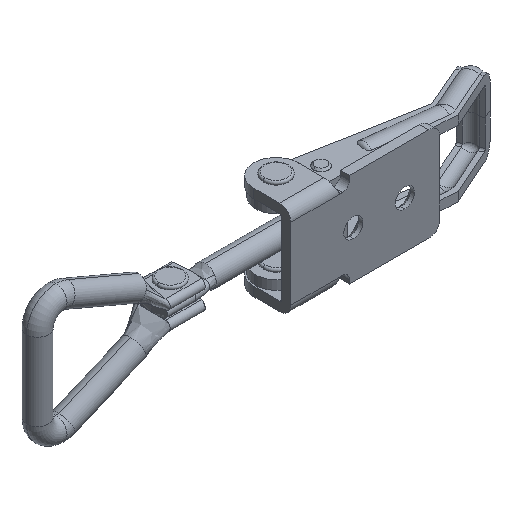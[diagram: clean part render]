
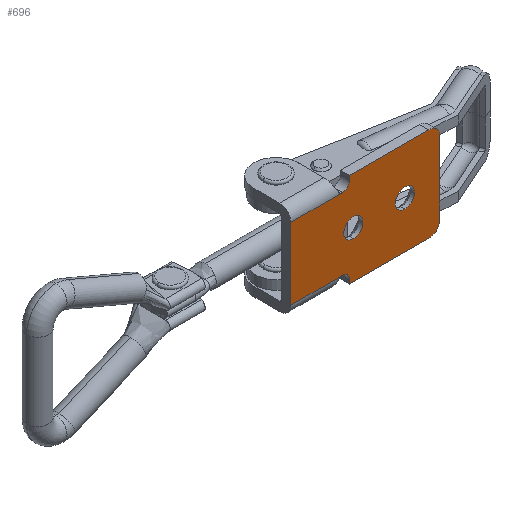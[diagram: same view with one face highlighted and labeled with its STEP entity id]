
A CAD part, isometric view. The second image highlights one B-rep face of the part: STEP entity #696.
In plain terms, the highlighted planar face has unit normal (0, -1, 0).
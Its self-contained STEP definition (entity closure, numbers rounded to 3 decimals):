
#508 = EDGE_CURVE ( 'NONE', #5918, #5825, #6114, .T. ) ;
#514 = EDGE_CURVE ( 'NONE', #5831, #5797, #6037, .T. ) ;
#696 = ADVANCED_FACE ( 'NONE', ( #7395, #7396, #7397 ), #3079, .F. ) ;
#740 = EDGE_CURVE ( 'NONE', #5938, #5826, #4828, .T. ) ;
#741 = EDGE_CURVE ( 'NONE', #5920, #5799, #4787, .T. ) ;
#747 = EDGE_CURVE ( 'NONE', #5797, #5831, #4752, .T. ) ;
#751 = EDGE_CURVE ( 'NONE', #5826, #5852, #7466, .T. ) ;
#755 = EDGE_CURVE ( 'NONE', #5934, #5895, #5123, .T. ) ;
#757 = EDGE_CURVE ( 'NONE', #5806, #5892, #7469, .T. ) ;
#760 = EDGE_CURVE ( 'NONE', #5825, #5918, #5016, .T. ) ;
#762 = EDGE_CURVE ( 'NONE', #5800, #5806, #4594, .T. ) ;
#764 = EDGE_CURVE ( 'NONE', #5852, #5934, #7472, .T. ) ;
#768 = EDGE_CURVE ( 'NONE', #5895, #5800, #7475, .T. ) ;
#770 = EDGE_CURVE ( 'NONE', #5820, #5877, #7477, .T. ) ;
#773 = EDGE_CURVE ( 'NONE', #5820, #5799, #7480, .T. ) ;
#781 = EDGE_CURVE ( 'NONE', #5892, #5920, #7486, .T. ) ;
#788 = EDGE_CURVE ( 'NONE', #5938, #5877, #7488, .T. ) ;
#1013 = DIRECTION ( 'NONE',  ( -1., 0., 0. ) ) ;
#1449 = CARTESIAN_POINT ( 'NONE',  ( 0., 0., 9.75 ) ) ;
#1815 = DIRECTION ( 'NONE',  ( 0., 0., 1. ) ) ;
#1870 = DIRECTION ( 'NONE',  ( 0., 1., 0. ) ) ;
#1877 = CARTESIAN_POINT ( 'NONE',  ( 17., 0., 0. ) ) ;
#1922 = DIRECTION ( 'NONE',  ( 0., 0., 1. ) ) ;
#2303 = DIRECTION ( 'NONE',  ( 0., 1., 0. ) ) ;
#2442 = CARTESIAN_POINT ( 'NONE',  ( 31., 0., 0. ) ) ;
#2981 = DIRECTION ( 'NONE',  ( 0., 1., 0. ) ) ;
#3033 = CARTESIAN_POINT ( 'NONE',  ( 37.5, 0., 9.75 ) ) ;
#3043 = DIRECTION ( 'NONE',  ( 0., 0., 1. ) ) ;
#3079 = PLANE ( 'NONE',  #4670 ) ;
#4172 = CARTESIAN_POINT ( 'NONE',  ( 14., 0., 11.75 ) ) ;
#4204 = DIRECTION ( 'NONE',  ( 0., -1., 0. ) ) ;
#4208 = CARTESIAN_POINT ( 'NONE',  ( 14., 0., -11.75 ) ) ;
#4220 = DIRECTION ( 'NONE',  ( 0., 0., -1. ) ) ;
#4286 = DIRECTION ( 'NONE',  ( 0., 0., 1. ) ) ;
#4321 = DIRECTION ( 'NONE',  ( 0., -1., 0. ) ) ;
#4581 = AXIS2_PLACEMENT_3D ( 'NONE', #4172, #4204, #4220 ) ;
#4594 = CIRCLE ( 'NONE', #4850, 3. ) ;
#4650 = VECTOR ( 'NONE', #6950, 1000. ) ;
#4654 = AXIS2_PLACEMENT_3D ( 'NONE', #7006, #6961, #7010 ) ;
#4670 = AXIS2_PLACEMENT_3D ( 'NONE', #3033, #2981, #3043 ) ;
#4686 = AXIS2_PLACEMENT_3D ( 'NONE', #7019, #6997, #7007 ) ;
#4706 = AXIS2_PLACEMENT_3D ( 'NONE', #4208, #4321, #4286 ) ;
#4734 = VECTOR ( 'NONE', #6902, 1000. ) ;
#4752 = CIRCLE ( 'NONE', #4851, 2.6 ) ;
#4777 = VECTOR ( 'NONE', #6907, 1000. ) ;
#4787 = CIRCLE ( 'NONE', #4706, 2. ) ;
#4828 = CIRCLE ( 'NONE', #4581, 2. ) ;
#4847 = VECTOR ( 'NONE', #6893, 1000. ) ;
#4850 = AXIS2_PLACEMENT_3D ( 'NONE', #6915, #7003, #6998 ) ;
#4851 = AXIS2_PLACEMENT_3D ( 'NONE', #6958, #6920, #6919 ) ;
#4869 = VECTOR ( 'NONE', #6967, 1000. ) ;
#4904 = VECTOR ( 'NONE', #6934, 1000. ) ;
#5016 = CIRCLE ( 'NONE', #4686, 2.6 ) ;
#5033 = VECTOR ( 'NONE', #6994, 1000. ) ;
#5123 = CIRCLE ( 'NONE', #4654, 3. ) ;
#5144 = VECTOR ( 'NONE', #1013, 1000. ) ;
#5191 = CARTESIAN_POINT ( 'NONE',  ( 14., 0., -9.75 ) ) ;
#5223 = CARTESIAN_POINT ( 'NONE',  ( 0., 0., -9.75 ) ) ;
#5258 = CARTESIAN_POINT ( 'NONE',  ( 17., 0., -2.6 ) ) ;
#5320 = CARTESIAN_POINT ( 'NONE',  ( 31., 0., 2.6 ) ) ;
#5363 = CARTESIAN_POINT ( 'NONE',  ( 37.5, 0., -12.75 ) ) ;
#5524 = CARTESIAN_POINT ( 'NONE',  ( 16., 0., 11.75 ) ) ;
#5554 = CARTESIAN_POINT ( 'NONE',  ( 17., 0., 2.6 ) ) ;
#5555 = CARTESIAN_POINT ( 'NONE',  ( 40.5, 0., -9.75 ) ) ;
#5797 = VERTEX_POINT ( 'NONE', #5554 ) ;
#5799 = VERTEX_POINT ( 'NONE', #5191 ) ;
#5800 = VERTEX_POINT ( 'NONE', #5555 ) ;
#5806 = VERTEX_POINT ( 'NONE', #5363 ) ;
#5820 = VERTEX_POINT ( 'NONE', #5223 ) ;
#5825 = VERTEX_POINT ( 'NONE', #5320 ) ;
#5826 = VERTEX_POINT ( 'NONE', #5524 ) ;
#5831 = VERTEX_POINT ( 'NONE', #5258 ) ;
#5852 = VERTEX_POINT ( 'NONE', #6553 ) ;
#5877 = VERTEX_POINT ( 'NONE', #6466 ) ;
#5892 = VERTEX_POINT ( 'NONE', #6511 ) ;
#5895 = VERTEX_POINT ( 'NONE', #6505 ) ;
#5918 = VERTEX_POINT ( 'NONE', #6500 ) ;
#5920 = VERTEX_POINT ( 'NONE', #6522 ) ;
#5934 = VERTEX_POINT ( 'NONE', #6611 ) ;
#5938 = VERTEX_POINT ( 'NONE', #6506 ) ;
#6035 = AXIS2_PLACEMENT_3D ( 'NONE', #1877, #2303, #1815 ) ;
#6037 = CIRCLE ( 'NONE', #6035, 2.6 ) ;
#6074 = AXIS2_PLACEMENT_3D ( 'NONE', #2442, #1870, #1922 ) ;
#6114 = CIRCLE ( 'NONE', #6074, 2.6 ) ;
#6466 = CARTESIAN_POINT ( 'NONE',  ( 0., 0., 9.75 ) ) ;
#6500 = CARTESIAN_POINT ( 'NONE',  ( 31., 0., -2.6 ) ) ;
#6505 = CARTESIAN_POINT ( 'NONE',  ( 40.5, 0., 9.75 ) ) ;
#6506 = CARTESIAN_POINT ( 'NONE',  ( 14., 0., 9.75 ) ) ;
#6511 = CARTESIAN_POINT ( 'NONE',  ( 16., 0., -12.75 ) ) ;
#6522 = CARTESIAN_POINT ( 'NONE',  ( 16., 0., -11.75 ) ) ;
#6553 = CARTESIAN_POINT ( 'NONE',  ( 16., 0., 12.75 ) ) ;
#6611 = CARTESIAN_POINT ( 'NONE',  ( 37.5, 0., 12.75 ) ) ;
#6893 = DIRECTION ( 'NONE',  ( 0., 0., 1. ) ) ;
#6902 = DIRECTION ( 'NONE',  ( 1., 0., 0. ) ) ;
#6907 = DIRECTION ( 'NONE',  ( -1., 0., 0. ) ) ;
#6908 = CARTESIAN_POINT ( 'NONE',  ( 40.5, 0., -9.75 ) ) ;
#6915 = CARTESIAN_POINT ( 'NONE',  ( 37.5, 0., -9.75 ) ) ;
#6919 = DIRECTION ( 'NONE',  ( 0., 0., 1. ) ) ;
#6920 = DIRECTION ( 'NONE',  ( 0., 1., 0. ) ) ;
#6929 = CARTESIAN_POINT ( 'NONE',  ( 16., 0., -12.75 ) ) ;
#6934 = DIRECTION ( 'NONE',  ( 0., 0., 1. ) ) ;
#6942 = CARTESIAN_POINT ( 'NONE',  ( 16., 0., -11.75 ) ) ;
#6950 = DIRECTION ( 'NONE',  ( 0., 0., 1. ) ) ;
#6958 = CARTESIAN_POINT ( 'NONE',  ( 17., 0., 0. ) ) ;
#6961 = DIRECTION ( 'NONE',  ( 0., 1., 0. ) ) ;
#6964 = CARTESIAN_POINT ( 'NONE',  ( 12., 0., -9.75 ) ) ;
#6967 = DIRECTION ( 'NONE',  ( 0., 0., -1. ) ) ;
#6976 = CARTESIAN_POINT ( 'NONE',  ( 16., 0., 12.75 ) ) ;
#6994 = DIRECTION ( 'NONE',  ( 1., 0., 0. ) ) ;
#6997 = DIRECTION ( 'NONE',  ( 0., 1., 0. ) ) ;
#6998 = DIRECTION ( 'NONE',  ( 0., 0., -1. ) ) ;
#6999 = CARTESIAN_POINT ( 'NONE',  ( 0., 0., 12.75 ) ) ;
#7003 = DIRECTION ( 'NONE',  ( 0., 1., 0. ) ) ;
#7004 = CARTESIAN_POINT ( 'NONE',  ( 16., 0., 11.75 ) ) ;
#7006 = CARTESIAN_POINT ( 'NONE',  ( 37.5, 0., 9.75 ) ) ;
#7007 = DIRECTION ( 'NONE',  ( 0., 0., 1. ) ) ;
#7010 = DIRECTION ( 'NONE',  ( 0., 0., 1. ) ) ;
#7019 = CARTESIAN_POINT ( 'NONE',  ( 31., 0., 0. ) ) ;
#7061 = ORIENTED_EDGE ( 'NONE', *, *, #773, .T. ) ;
#7065 = ORIENTED_EDGE ( 'NONE', *, *, #788, .T. ) ;
#7072 = ORIENTED_EDGE ( 'NONE', *, *, #514, .T. ) ;
#7074 = ORIENTED_EDGE ( 'NONE', *, *, #760, .T. ) ;
#7079 = ORIENTED_EDGE ( 'NONE', *, *, #768, .F. ) ;
#7091 = ORIENTED_EDGE ( 'NONE', *, *, #751, .F. ) ;
#7102 = ORIENTED_EDGE ( 'NONE', *, *, #747, .T. ) ;
#7104 = ORIENTED_EDGE ( 'NONE', *, *, #757, .F. ) ;
#7105 = ORIENTED_EDGE ( 'NONE', *, *, #741, .F. ) ;
#7106 = ORIENTED_EDGE ( 'NONE', *, *, #740, .F. ) ;
#7109 = ORIENTED_EDGE ( 'NONE', *, *, #764, .F. ) ;
#7119 = ORIENTED_EDGE ( 'NONE', *, *, #781, .F. ) ;
#7145 = ORIENTED_EDGE ( 'NONE', *, *, #508, .T. ) ;
#7151 = ORIENTED_EDGE ( 'NONE', *, *, #770, .F. ) ;
#7156 = ORIENTED_EDGE ( 'NONE', *, *, #762, .F. ) ;
#7161 = ORIENTED_EDGE ( 'NONE', *, *, #755, .F. ) ;
#7183 = EDGE_LOOP ( 'NONE', ( #7106, #7065, #7151, #7061, #7105, #7119, #7104, #7156, #7079, #7161, #7109, #7091 ) ) ;
#7184 = EDGE_LOOP ( 'NONE', ( #7074, #7145 ) ) ;
#7198 = EDGE_LOOP ( 'NONE', ( #7102, #7072 ) ) ;
#7395 = FACE_BOUND ( 'NONE', #7198, .T. ) ;
#7396 = FACE_BOUND ( 'NONE', #7184, .T. ) ;
#7397 = FACE_OUTER_BOUND ( 'NONE', #7183, .T. ) ;
#7466 = LINE ( 'NONE', #7004, #4904 ) ;
#7469 = LINE ( 'NONE', #6929, #4777 ) ;
#7472 = LINE ( 'NONE', #6976, #5033 ) ;
#7475 = LINE ( 'NONE', #6908, #4869 ) ;
#7477 = LINE ( 'NONE', #6999, #4847 ) ;
#7480 = LINE ( 'NONE', #6964, #4734 ) ;
#7486 = LINE ( 'NONE', #6942, #4650 ) ;
#7488 = LINE ( 'NONE', #1449, #5144 ) ;
